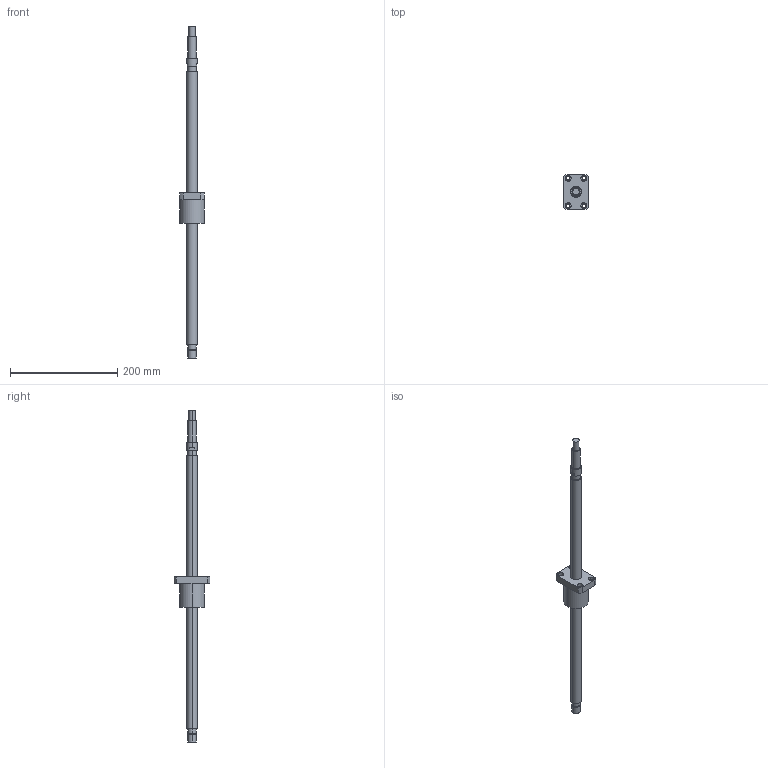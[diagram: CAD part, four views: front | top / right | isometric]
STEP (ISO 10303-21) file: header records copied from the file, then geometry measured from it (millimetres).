
FILE_DESCRIPTION((''),'2;1');
FILE_NAME('R20-20K2-FSC-510-620','2008-04-03T',('wcwu'),(''),'PRO/ENGINEER BY PARAMETRIC TECHNOLOGY CORPORATION, 2005070','PRO/ENGINEER BY PARAMETRIC TECHNOLOGY CORPORATION, 2005070','');
FILE_SCHEMA(('CONFIG_CONTROL_DESIGN'));
Length unit declared in the file: millimetre
Products named in the file (1): R20-20K2-FSC-510-620
Bounding box: 46 x 66 x 620 mm (x, y, z)
Volume: 271206.5 mm3; surface area: 50178.4 mm2
Topology: 1 solids, 1 shells, 65 faces, 146 edges, 96 vertices
Faces by surface type: cylinder 40, plane 25
Entity records: 1906 total; most frequent: DIRECTION 360, CARTESIAN_POINT 307, ORIENTED_EDGE 292, AXIS2_PLACEMENT_3D 149, EDGE_CURVE 146, VERTEX_POINT 96, EDGE_LOOP 86, CIRCLE 84
